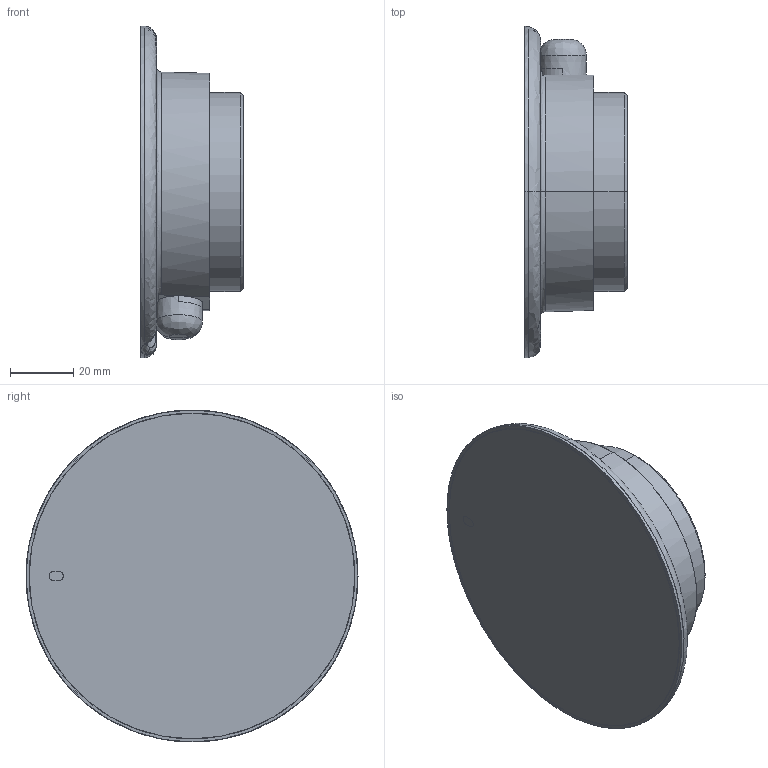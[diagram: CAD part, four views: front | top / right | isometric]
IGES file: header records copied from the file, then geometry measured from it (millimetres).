
Start section: SolidWorks IGES file using analytic representation for surfaces
Global section: file name: C:\data\sap_doc\500000125163\M12\CRB15000_12kg-127_Omnicore_rev00_LINK06_CAD.igs; native system: SolidWorks 2022; preprocessor: SolidWorks 2022; author: CNTAFEN; date: 230705.154231; units: millimetre
Bounding box: 32.6 x 105.08 x 105.08 mm (x, y, z)
Surface area: 28416.2 mm2 (no closed solid volume)
Topology: 0 solids, 0 shells, 181 faces, 3368 edges, 3350 vertices
Faces by surface type: revolution 123, bspline 58
